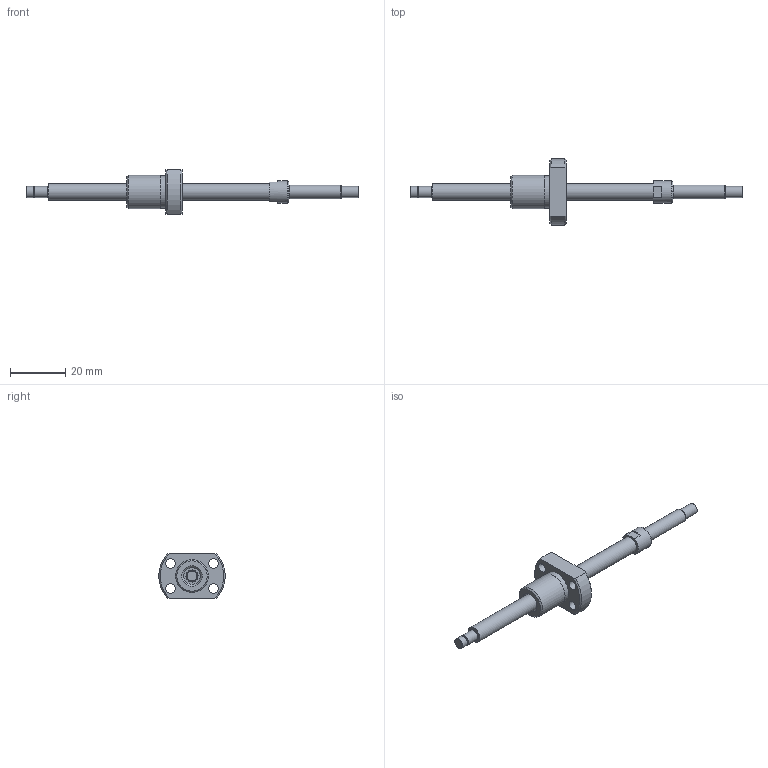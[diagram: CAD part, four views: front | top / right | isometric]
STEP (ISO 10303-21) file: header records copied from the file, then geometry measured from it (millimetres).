
FILE_DESCRIPTION(/* description */ ('STEP AP214'),/* implementation_level */ '2;1');
FILE_NAME(/* name */ 'NSGF0601Z-077R120C3-0-T-S-T-B-(28.5-S)',/* time_stamp */ '2026-08-24T20:03:28+02:00',/* author */ ('License CC BY-ND 4.0'),/* organization */ ('CADENAS'),/* preprocessor_version */ 'ST-DEVELOPER v20',/* originating_system */ 'PARTsolutions',/* authorisation */ ' ');
FILE_SCHEMA (('AUTOMOTIVE_DESIGN { 1 0 10303 214 3 1 1 }','AUTOMOTIVE_DESIGN {1 0 10303 214 3 1 1}'));
Length unit declared in the file: millimetre
Products named in the file (3): NSGF0601Z-077R120C3-0-T-S-T-B-(28.5-S); NSG0601Z-77R120_(T-S_T-B_2)_2; NSGF0601Z-1
Assembly tree (2 placements, depth 2):
  NSGF0601Z-077R120C3-0-T-S-T-B-(28.5-S)
    NSG0601Z-77R120_(T-S_T-B_2)_2
    NSGF0601Z-1
Bounding box: 120 x 23.92 x 16 mm (x, y, z)
Volume: 5840.6 mm3; surface area: 4431.1 mm2
Topology: 2 solids, 2 shells, 47 faces, 98 edges, 64 vertices
Faces by surface type: plane 19, cylinder 17, cone 9, torus 2
Full cylindrical faces by diameter (mm): 3.4 x4, 3.7 x1, 4 x3, 5 x1, 6 x2, 8 x1, 10 x1, 11.7 x1, 12 x1
Entity records: 1225 total; most frequent: DIRECTION 212, CARTESIAN_POINT 206, ORIENTED_EDGE 144, AXIS2_PLACEMENT_3D 98, EDGE_LOOP 88, FACE_BOUND 88, EDGE_CURVE 72, VERTEX_POINT 60
